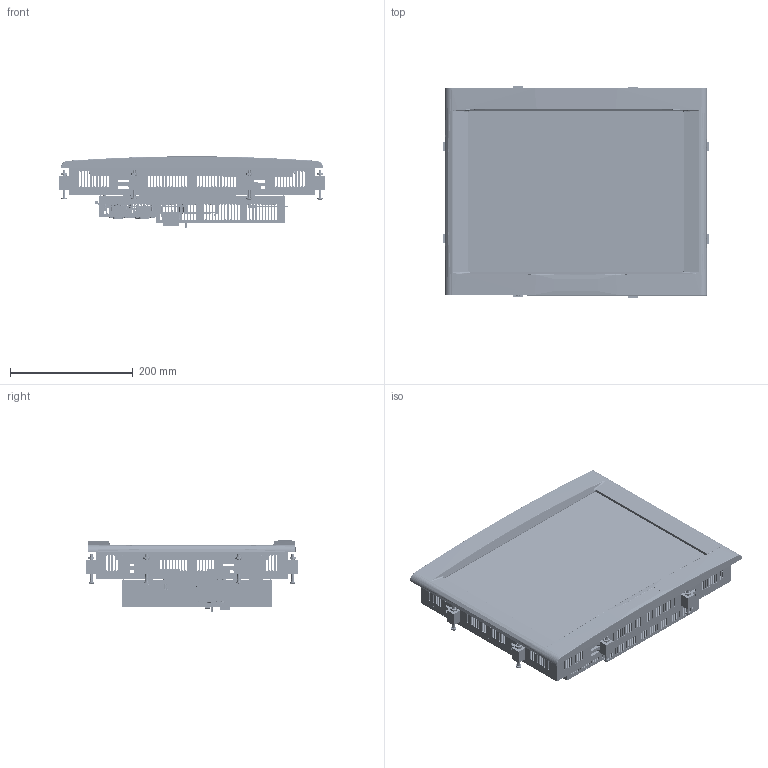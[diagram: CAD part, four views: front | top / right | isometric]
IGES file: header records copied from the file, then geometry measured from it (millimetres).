
Start section:  PTC IGES file: PA215.igs
Global section: file name: PA215.igs; native system: Pro/ENGINEER by Parametric Technology Corporation; preprocessor: 2008070; author: jb17719; organization: Unknown; date: 20091109.192404; units: inch
Bounding box: 432.37 x 343.48 x 115.96 mm (x, y, z)
Surface area: 1172656.7 mm2 (no closed solid volume)
Topology: 0 solids, 756 shells, 3279 faces, 15479 edges, 12690 vertices
Faces by surface type: bspline 3279
